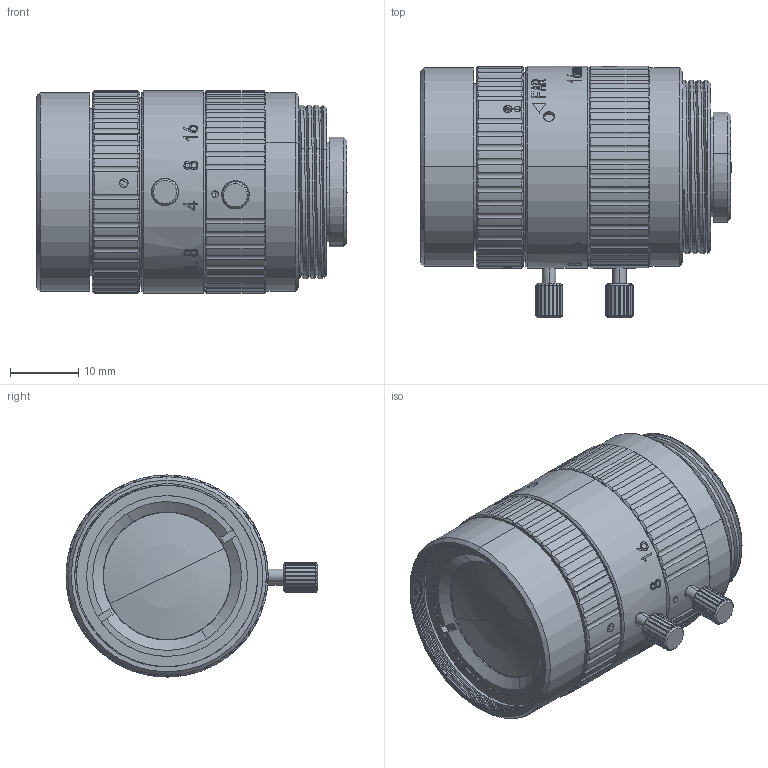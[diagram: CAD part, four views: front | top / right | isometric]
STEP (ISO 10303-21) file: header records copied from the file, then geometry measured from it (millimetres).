
FILE_DESCRIPTION (( 'STEP AP203' ), '1' );
FILE_NAME ('ぱ籵遴16mm蚾饜极2.STEP', '2021-08-20T06:57:47', ( '' ), ( '' ), 'SwSTEP 2.0', 'SolidWorks 2019', '' );
FILE_SCHEMA (( 'CONFIG_CONTROL_DESIGN' ));
Length unit declared in the file: millimetre
Products named in the file (3): ぱ籵遴16mm蚾饜极2; ____2^______16mm______2.STEP; ぱ籵遴16mm蚾饜极2.STEP
Assembly tree (2 placements, depth 3):
  ぱ籵遴16mm蚾饜极2
    ぱ籵遴16mm蚾饜极2.STEP
      ____2^______16mm______2.STEP
Bounding box: 45.35 x 36.78 x 29.5 mm (x, y, z)
Volume: 26642.8 mm3; surface area: 7017.6 mm2
Topology: 1 solids, 1 shells, 856 faces, 2331 edges, 1541 vertices
Faces by surface type: plane 349, cylinder 331, bspline 108, cone 64, sphere 4
Entity records: 43246 total; most frequent: CARTESIAN_POINT 22956, ORIENTED_EDGE 4642, DIRECTION 3487, EDGE_CURVE 2321, VERTEX_POINT 1539, AXIS2_PLACEMENT_3D 1324, EDGE_LOOP 928, B_SPLINE_CURVE_WITH_KNOTS 874
